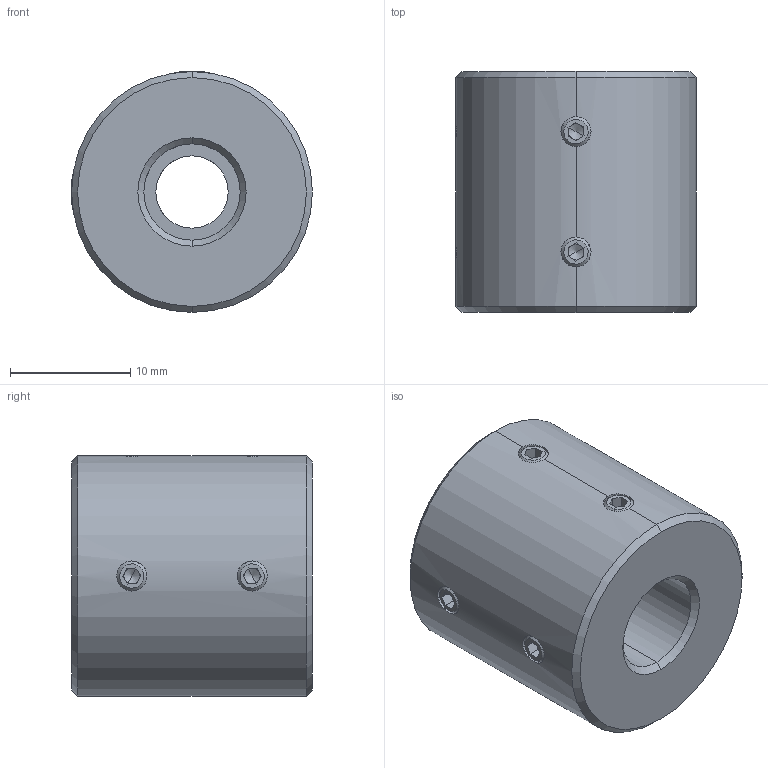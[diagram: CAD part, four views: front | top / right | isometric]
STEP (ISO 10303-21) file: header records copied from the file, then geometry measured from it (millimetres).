
FILE_DESCRIPTION (( 'STEP AP214' ), '1' );
FILE_NAME ('LL-D-D20L20-6-8.STEP', '2022-07-23T06:32:39', ( '' ), ( '' ), 'SwSTEP 2.0', 'SolidWorks 2022', '' );
FILE_SCHEMA (( 'AUTOMOTIVE_DESIGN' ));
Length unit declared in the file: millimetre
Products named in the file (1): LL-D-D20L20-6-8
Bounding box: 20 x 20 x 20 mm (x, y, z)
Volume: 5414.8 mm3; surface area: 2353 mm2
Topology: 1 solids, 1 shells, 113 faces, 286 edges, 176 vertices
Faces by surface type: plane 59, cone 32, cylinder 22
Entity records: 3642 total; most frequent: CARTESIAN_POINT 892, DIRECTION 582, ORIENTED_EDGE 556, EDGE_CURVE 278, AXIS2_PLACEMENT_3D 214, VERTEX_POINT 176, VECTOR 154, LINE 154
